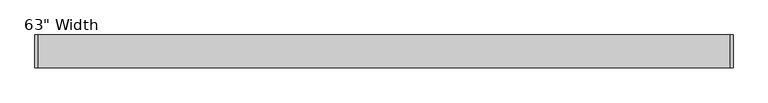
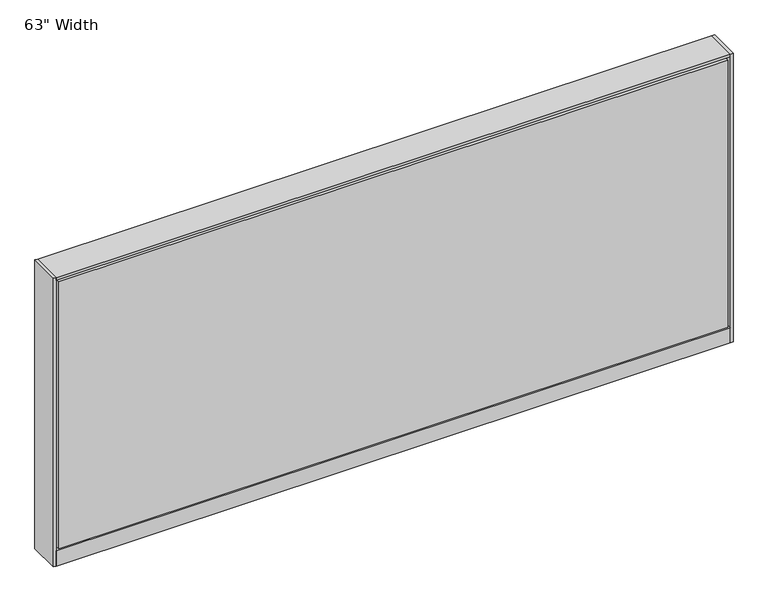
"""IFC4 building model written with IfcOpenShell, lengths in millimetres: furniture geometry."""

from ifc_helpers import new_model, si_unit, point, frame, frame_2d, origin, origin_with_axes, place, context, project, spatial, polyline, circle_curve, trimmed, segment, composite_curve, outline, extrude, source, transform, mapped, element, save


def furniture_bab812d2(model_context):
    return source(origin(), model_context, "Body", "SweptSolid", [
        extrude(outline(composite_curve([segment(trimmed(circle_curve(frame_2d((726.3402902, 0.0)), 12.7), [point((713.6402902, 0.0))], [point((739.0402902, 0.0))], False, "CARTESIAN"), True, "CONTINUOUS"), segment(trimmed(circle_curve(frame_2d((726.3402902, 0.0)), 12.7), [point((739.0402902, 0.0))], [point((713.6402902, 0.0))], False, "CARTESIAN"), True, "CONTINUOUS")], self_intersect=False)), origin_with_axes(), (0.0, 0.0, 1.0), 12.7),
        extrude(outline(composite_curve([segment(trimmed(circle_curve(frame_2d((-721.4597098, 0.0)), 12.7), [point((-734.1597098, 0.0))], [point((-708.7597098, 0.0))], False, "CARTESIAN"), True, "CONTINUOUS"), segment(trimmed(circle_curve(frame_2d((-721.4597098, 0.0)), 12.7), [point((-708.7597098, 0.0))], [point((-734.1597098, 0.0))], False, "CARTESIAN"), True, "CONTINUOUS")], self_intersect=False)), origin_with_axes(), (0.0, 0.0, 1.0), 12.7),
        extrude(outline(polyline([(-804.0097098, 38.1), (-797.6597098, 38.1), (-797.6597098, -38.1), (-804.0097098, -38.1), (-804.0097098, 38.1)])), frame((0.0, 0.0, 12.7), z_axis=(0.0, 0.0, 1.0), x_axis=(1.0, 0.0, 0.0)), (0.0, 0.0, 1.0), 723.9),
        extrude(outline(polyline([(808.8902902, -38.1), (802.5402902, -38.1), (802.5402902, 38.1), (808.8902902, 38.1), (808.8902902, -38.1)])), frame((0.0, 0.0, 12.7), z_axis=(0.0, 0.0, 1.0), x_axis=(1.0, 0.0, 0.0)), (0.0, 0.0, 1.0), 723.9),
        extrude(outline(polyline([(796.1902902, -38.1), (-791.3097098, -38.1), (-791.3097098, -25.4), (796.1902902, -25.4), (796.1902902, -38.1)])), frame((0.0, 0.0, 53.975), z_axis=(0.0, 0.0, 1.0), x_axis=(1.0, 0.0, 0.0)), (0.0, 0.0, 1.0), 669.925),
        extrude(outline(polyline([(796.1902902, 38.1), (796.1902902, 25.4), (-791.3097098, 25.4), (-791.3097098, 38.1), (796.1902902, 38.1)])), frame((0.0, 0.0, 53.975), z_axis=(0.0, 0.0, 1.0), x_axis=(1.0, 0.0, 0.0)), (0.0, 0.0, 1.0), 669.925),
        extrude(outline(polyline([(802.5402902, -25.4), (-797.6597098, -25.4), (-797.6597098, 25.4), (802.5402902, 25.4), (802.5402902, -25.4)])), frame((0.0, 0.0, 12.7), z_axis=(0.0, 0.0, 1.0), x_axis=(1.0, 0.0, 0.0)), (0.0, 0.0, 1.0), 717.55),
        extrude(outline(polyline([(-797.6597098, 38.1), (802.5402902, 38.1), (802.5402902, -38.1), (-797.6597098, -38.1), (-797.6597098, 38.1)])), frame((0.0, 0.0, 12.7), z_axis=(0.0, 0.0, 1.0), x_axis=(1.0, 0.0, 0.0)), (0.0, 0.0, 1.0), 38.1),
        extrude(outline(polyline([(-797.6597098, 38.1), (802.5402902, 38.1), (802.5402902, -38.1), (-797.6597098, -38.1), (-797.6597098, 38.1)])), frame((0.0, 0.0, 730.25), z_axis=(0.0, 0.0, 1.0), x_axis=(1.0, 0.0, 0.0)), (0.0, 0.0, 1.0), 6.35),
    ])


if __name__ == "__main__":
    model = new_model("IFC4")
    model_context = context("Model", 3, world=origin())
    ifc_project = project(units=[si_unit("LENGTHUNIT", "METRE", prefix="MILLI")], contexts=[model_context])
    site = spatial("IfcSite", under=ifc_project)
    building = spatial("IfcBuilding", under=site)
    placement = place(None, origin())
    furniture_shape = furniture_bab812d2(model_context)
    element("IfcFurniture", 1, ObjectType="Haworth_Compose-Panel-Benching : 63\" Width", at=placement, inside=building, context=model_context, shape_type="MappedRepresentation", body=[
        mapped(furniture_shape, transform((0.0, 0.0, 0.0), x_axis=(1.0, 0.0, 0.0), y_axis=(0.0, 1.0, 0.0), z_axis=(0.0, 0.0, 1.0))),
    ])
    save(model, "model.ifc")
